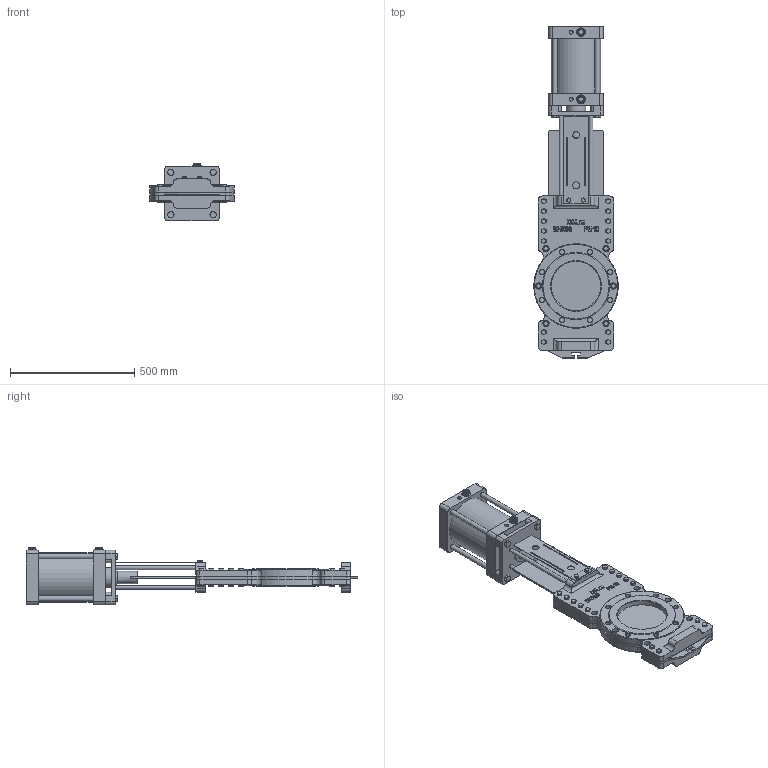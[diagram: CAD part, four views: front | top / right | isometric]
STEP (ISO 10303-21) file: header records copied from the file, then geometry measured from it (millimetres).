
FILE_DESCRIPTION(('STEP AP242'), '1');
FILE_NAME('GVKRT3431N-2W-Fb-2P Çàäâèæêà øèáåðíàÿ ñ âûäâèæíûì øòîêîì è ñêâîçíûì íîæîì DN.ru Äó200 Ðó10', '2026-05-27T18:11:57', ('DN.ru'), (''), 'C3D Converter', 'C3D Toolkit', '');
FILE_SCHEMA(('AP242_MANAGED_MODEL_BASED_3D_ENGINEERING_MIM_LF { 1 0 10303 442 1 1 4 }'));
Length unit declared in the file: millimetre
Products named in the file (1): GVKRT3431N-2W-Fb-2P
Bounding box: 339.87 x 1337 x 232.5 mm (x, y, z)
Volume: 25149008.8 mm3; surface area: 2212101.1 mm2
Topology: 1 solids, 31 shells, 1673 faces, 3872 edges, 2384 vertices
Faces by surface type: plane 928, cone 308, cylinder 292, extrusion 133, torus 12
Full cylindrical faces by diameter (mm): 10 x2, 12 x42, 14 x34, 16 x6, 16.339 x2, 18 x40, 19.05 x2, 20 x24, 22 x4, 24 x4, 25 x12, 27.951 x2, 30 x2, 35 x2, 50 x1, 80 x2, 200 x3, 340 x2
Entity records: 71699 total; most frequent: CARTESIAN_POINT 21642, ORIENTED_EDGE 7296, DIRECTION 7257, EDGE_CURVE 3648, AXIS2_PLACEMENT_3D 2757, VERTEX_POINT 2382, EDGE_LOOP 2134, FACE_BOUND 1779
